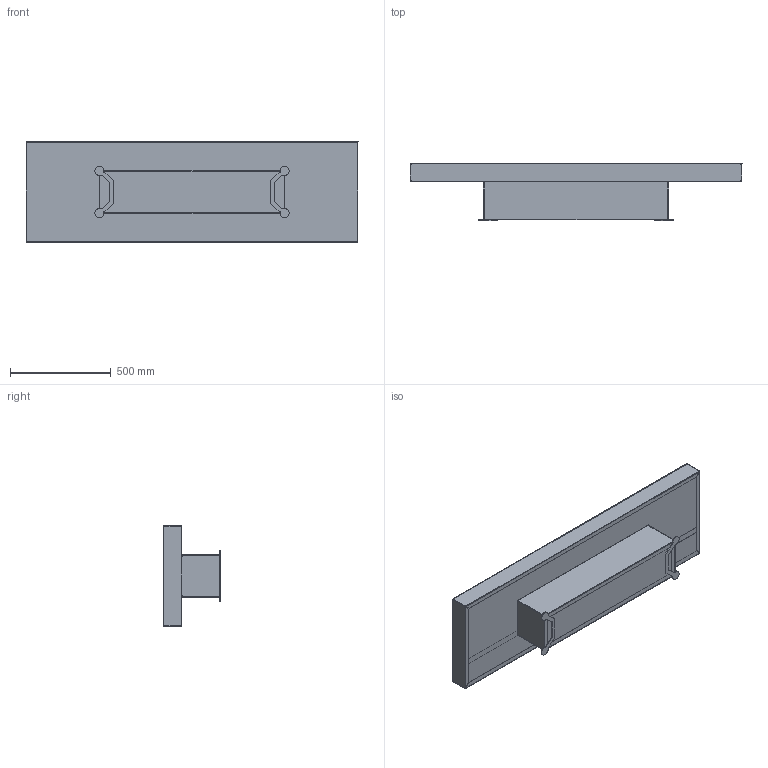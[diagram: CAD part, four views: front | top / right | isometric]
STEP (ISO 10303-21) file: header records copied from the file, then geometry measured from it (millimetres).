
FILE_DESCRIPTION (( 'STEP AP214' ), '1' );
FILE_NAME ('Eskoleia UNIT 004.STEP', '2026-09-12T21:22:40', ( '' ), ( '' ), 'SwSTEP 2.0', 'SolidWorks 2025', '' );
FILE_SCHEMA (( 'AUTOMOTIVE_DESIGN' ));
Length unit declared in the file: millimetre
Products named in the file (1): Eskoleia UNIT 004
Bounding box: 1650 x 288 x 500.02 mm (x, y, z)
Volume: 5199907.3 mm3; surface area: 7192459.5 mm2
Topology: 4 solids, 4 shells, 361 faces, 1094 edges, 700 vertices
Faces by surface type: plane 286, bspline 48, cylinder 27
Entity records: 15049 total; most frequent: CARTESIAN_POINT 5657, ORIENTED_EDGE 2188, DIRECTION 1576, EDGE_CURVE 1094, VECTOR 824, LINE 824, VERTEX_POINT 700, AXIS2_PLACEMENT_3D 376
